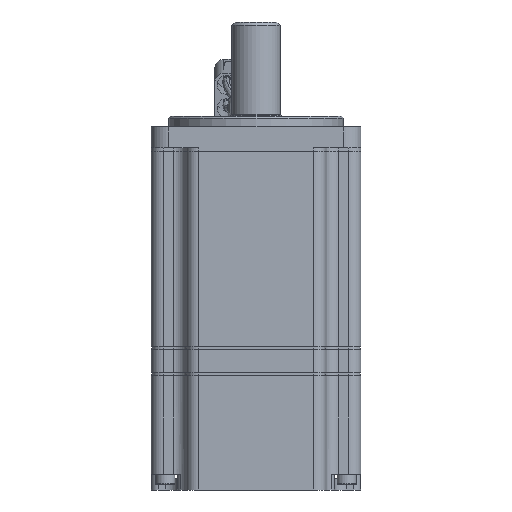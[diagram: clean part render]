
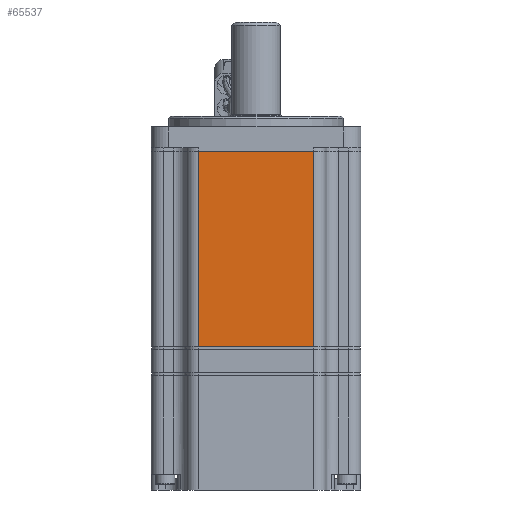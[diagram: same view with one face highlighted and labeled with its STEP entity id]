
A CAD part, front view. The second image highlights one B-rep face of the part: STEP entity #65537.
In plain terms, the highlighted planar face has unit normal (0, -1, 0).
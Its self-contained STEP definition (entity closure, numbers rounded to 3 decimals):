
#990 = VERTEX_POINT ( 'NONE', #44560 ) ;
#5712 = VECTOR ( 'NONE', #23046, 1000. ) ;
#6502 = VECTOR ( 'NONE', #58927, 1000. ) ;
#7387 = DIRECTION ( 'NONE',  ( 0., 0., -1. ) ) ;
#7883 = CARTESIAN_POINT ( 'NONE',  ( 20., -30., -1. ) ) ;
#11645 = ORIENTED_EDGE ( 'NONE', *, *, #31076, .T. ) ;
#13369 = PLANE ( 'NONE',  #28828 ) ;
#14069 = CARTESIAN_POINT ( 'NONE',  ( 16.5, -30., -1. ) ) ;
#17017 = LINE ( 'NONE', #43454, #6502 ) ;
#17833 = CARTESIAN_POINT ( 'NONE',  ( 20., -30., -57. ) ) ;
#18597 = DIRECTION ( 'NONE',  ( 0., 0., 1. ) ) ;
#21528 = CARTESIAN_POINT ( 'NONE',  ( -16.5, -30., -57. ) ) ;
#23046 = DIRECTION ( 'NONE',  ( -1., 0., 0. ) ) ;
#24002 = FACE_OUTER_BOUND ( 'NONE', #61396, .T. ) ;
#25759 = VERTEX_POINT ( 'NONE', #14069 ) ;
#28006 = CARTESIAN_POINT ( 'NONE',  ( -16.5, -30., -57. ) ) ;
#28813 = ORIENTED_EDGE ( 'NONE', *, *, #45755, .T. ) ;
#28828 = AXIS2_PLACEMENT_3D ( 'NONE', #39256, #49711, #18597 ) ;
#31076 = EDGE_CURVE ( 'NONE', #38109, #45081, #55236, .T. ) ;
#36241 = ORIENTED_EDGE ( 'NONE', *, *, #38426, .F. ) ;
#36587 = LINE ( 'NONE', #17833, #5712 ) ;
#38109 = VERTEX_POINT ( 'NONE', #51220 ) ;
#38426 = EDGE_CURVE ( 'NONE', #990, #45081, #36587, .T. ) ;
#39256 = CARTESIAN_POINT ( 'NONE',  ( 20., -30., -57. ) ) ;
#41395 = VECTOR ( 'NONE', #7387, 1000. ) ;
#43454 = CARTESIAN_POINT ( 'NONE',  ( 16.5, -30., -57. ) ) ;
#43957 = DIRECTION ( 'NONE',  ( -1., 0., 0. ) ) ;
#44560 = CARTESIAN_POINT ( 'NONE',  ( 16.5, -30., -57. ) ) ;
#45081 = VERTEX_POINT ( 'NONE', #21528 ) ;
#45755 = EDGE_CURVE ( 'NONE', #990, #25759, #17017, .T. ) ;
#47067 = LINE ( 'NONE', #7883, #62537 ) ;
#49711 = DIRECTION ( 'NONE',  ( 0., 1., 0. ) ) ;
#50173 = ORIENTED_EDGE ( 'NONE', *, *, #63184, .T. ) ;
#51220 = CARTESIAN_POINT ( 'NONE',  ( -16.5, -30., -1. ) ) ;
#55236 = LINE ( 'NONE', #28006, #41395 ) ;
#58927 = DIRECTION ( 'NONE',  ( 0., 0., 1. ) ) ;
#61396 = EDGE_LOOP ( 'NONE', ( #36241, #28813, #50173, #11645 ) ) ;
#62537 = VECTOR ( 'NONE', #43957, 1000. ) ;
#63184 = EDGE_CURVE ( 'NONE', #25759, #38109, #47067, .T. ) ;
#65537 = ADVANCED_FACE ( 'NONE', ( #24002 ), #13369, .F. ) ;
